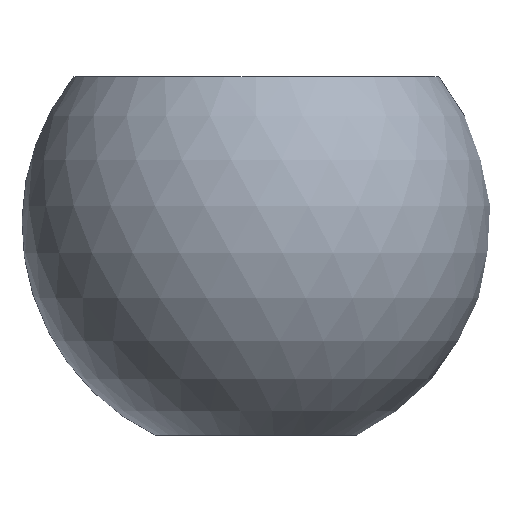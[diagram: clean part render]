
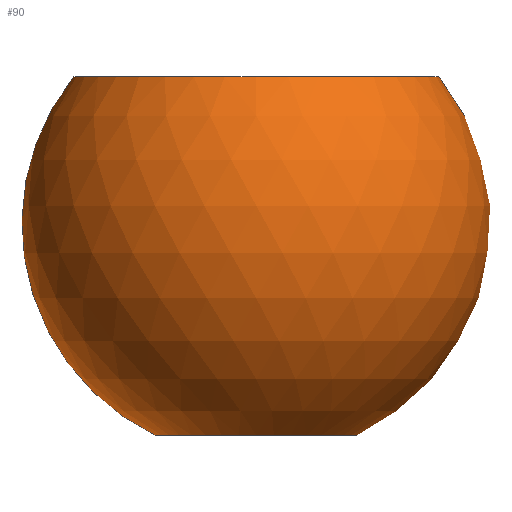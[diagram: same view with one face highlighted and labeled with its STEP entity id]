
A CAD part, front view. The second image highlights one B-rep face of the part: STEP entity #90.
In plain terms, the highlighted spherical face has radius 325 mm.
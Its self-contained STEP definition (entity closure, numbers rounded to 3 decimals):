
#17=SPHERICAL_SURFACE('',#111,325.);
#21=FACE_OUTER_BOUND('',#27,.T.);
#27=EDGE_LOOP('',(#73,#74,#75,#76,#77));
#33=CIRCLE('',#109,139.432);
#34=CIRCLE('',#110,139.432);
#35=CIRCLE('',#112,253.036);
#36=CIRCLE('',#113,325.);
#45=VERTEX_POINT('',#412);
#46=VERTEX_POINT('',#423);
#47=VERTEX_POINT('',#427);
#55=EDGE_CURVE('',#46,#45,#33,.T.);
#56=EDGE_CURVE('',#45,#46,#34,.T.);
#57=EDGE_CURVE('',#47,#47,#35,.T.);
#58=EDGE_CURVE('',#47,#46,#36,.T.);
#73=ORIENTED_EDGE('',*,*,#57,.F.);
#74=ORIENTED_EDGE('',*,*,#58,.T.);
#75=ORIENTED_EDGE('',*,*,#55,.T.);
#76=ORIENTED_EDGE('',*,*,#56,.T.);
#77=ORIENTED_EDGE('',*,*,#58,.F.);
#90=ADVANCED_FACE('',(#21),#17,.T.);
#109=AXIS2_PLACEMENT_3D('',#424,#122,#123);
#110=AXIS2_PLACEMENT_3D('',#425,#124,#125);
#111=AXIS2_PLACEMENT_3D('',#426,#126,#127);
#112=AXIS2_PLACEMENT_3D('',#428,#128,#129);
#113=AXIS2_PLACEMENT_3D('',#429,#130,#131);
#122=DIRECTION('center_axis',(0.,0.,1.));
#123=DIRECTION('ref_axis',(1.,0.,0.));
#124=DIRECTION('center_axis',(0.,0.,1.));
#125=DIRECTION('ref_axis',(1.,0.,0.));
#126=DIRECTION('center_axis',(0.,0.,1.));
#127=DIRECTION('ref_axis',(1.,0.,0.));
#128=DIRECTION('center_axis',(0.,0.,1.));
#129=DIRECTION('ref_axis',(1.,0.,0.));
#130=DIRECTION('center_axis',(0.,-1.,0.));
#131=DIRECTION('ref_axis',(-1.,0.,0.));
#412=CARTESIAN_POINT('',(48.78,0.,-0.639));
#423=CARTESIAN_POINT('',(-230.085,0.,-0.639));
#424=CARTESIAN_POINT('Origin',(-90.652,0.,-0.639));
#425=CARTESIAN_POINT('Origin',(-90.652,0.,-0.639));
#426=CARTESIAN_POINT('Origin',(-90.652,0.,292.932));
#427=CARTESIAN_POINT('',(-343.688,0.,496.888));
#428=CARTESIAN_POINT('Origin',(-90.652,0.,496.888));
#429=CARTESIAN_POINT('Origin',(-90.652,0.,292.932));
